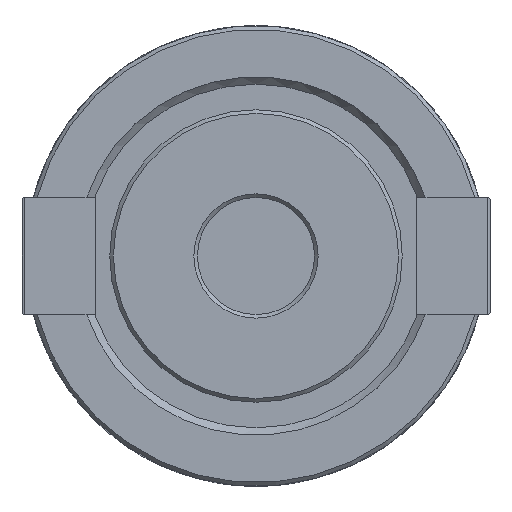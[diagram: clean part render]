
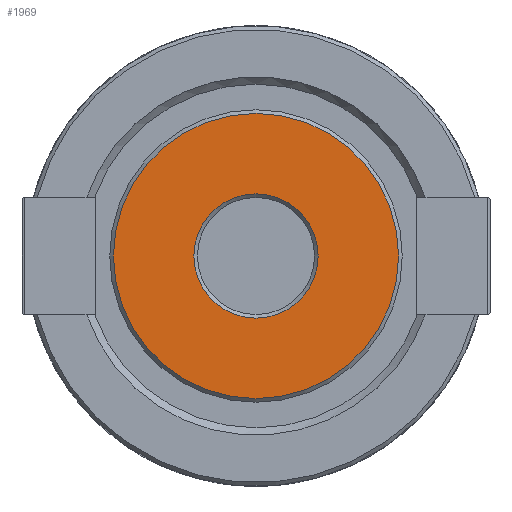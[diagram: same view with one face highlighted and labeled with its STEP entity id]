
A CAD part, front view. The second image highlights one B-rep face of the part: STEP entity #1969.
In plain terms, the highlighted planar face has unit normal (0, -1, 0).
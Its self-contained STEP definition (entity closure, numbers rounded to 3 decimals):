
#156=FACE_BOUND('',#437,.T.);
#218=PLANE('',#2165);
#318=FACE_OUTER_BOUND('',#436,.T.);
#436=EDGE_LOOP('',(#1778));
#437=EDGE_LOOP('',(#1779));
#827=CIRCLE('',#2162,8.5);
#830=CIRCLE('',#2166,19.5);
#1007=VERTEX_POINT('',#3368);
#1010=VERTEX_POINT('',#3376);
#1270=EDGE_CURVE('',#1007,#1007,#827,.T.);
#1274=EDGE_CURVE('',#1010,#1010,#830,.T.);
#1778=ORIENTED_EDGE('',*,*,#1274,.F.);
#1779=ORIENTED_EDGE('',*,*,#1270,.F.);
#1969=ADVANCED_FACE('',(#318,#156),#218,.T.);
#2162=AXIS2_PLACEMENT_3D('',#3369,#2661,#2662);
#2165=AXIS2_PLACEMENT_3D('',#3375,#2668,#2669);
#2166=AXIS2_PLACEMENT_3D('',#3377,#2670,#2671);
#2661=DIRECTION('center_axis',(0.,-1.,0.));
#2662=DIRECTION('ref_axis',(-1.,0.,0.));
#2668=DIRECTION('center_axis',(0.,-1.,0.));
#2669=DIRECTION('ref_axis',(0.,0.,-1.));
#2670=DIRECTION('center_axis',(0.,1.,0.));
#2671=DIRECTION('ref_axis',(-1.,0.,0.));
#3368=CARTESIAN_POINT('',(8.5,-25.,0.));
#3369=CARTESIAN_POINT('Origin',(0.,-25.,0.));
#3375=CARTESIAN_POINT('Origin',(0.,-25.,0.));
#3376=CARTESIAN_POINT('',(19.5,-25.,0.));
#3377=CARTESIAN_POINT('Origin',(0.,-25.,0.));
